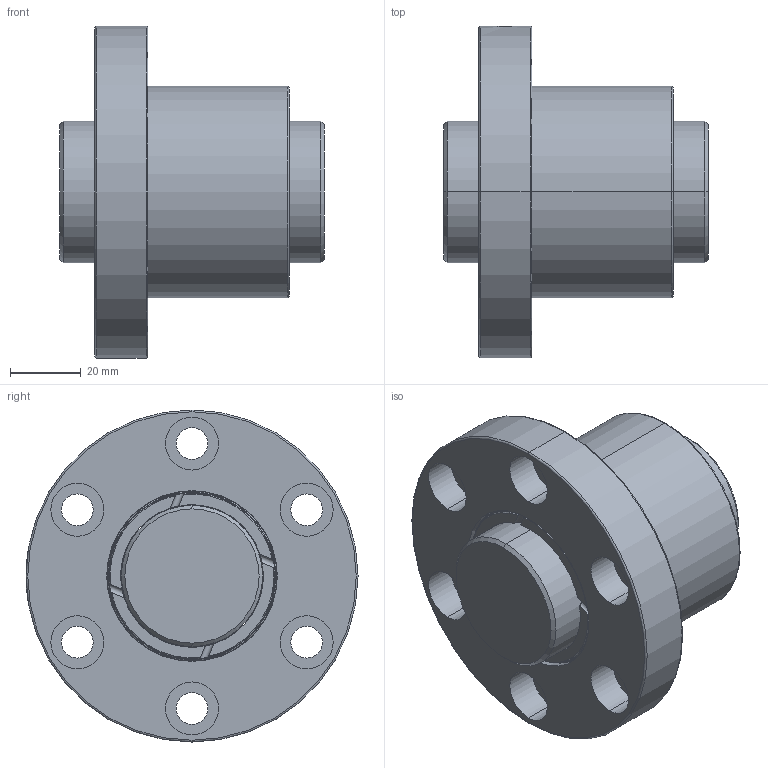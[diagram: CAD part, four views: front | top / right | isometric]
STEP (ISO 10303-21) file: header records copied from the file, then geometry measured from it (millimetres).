
FILE_DESCRIPTION (( 'STEP AP203' ), '1' );
FILE_NAME ('SFZR04005T4N-C.STEP', '2020-06-18T01:00:38', ( '' ), ( '' ), 'SwSTEP 2.0', 'SolidWorks 2013', '' );
FILE_SCHEMA (( 'CONFIG_CONTROL_DESIGN' ));
Length unit declared in the file: millimetre
Products named in the file (1): SFZR04005T4N-C
Bounding box: 75 x 94 x 94 mm (x, y, z)
Volume: 223315.3 mm3; surface area: 49653.2 mm2
Topology: 2 solids, 2 shells, 120 faces, 288 edges, 182 vertices
Faces by surface type: cylinder 66, plane 26, torus 24, cone 4
Entity records: 4027 total; most frequent: CARTESIAN_POINT 1059, DIRECTION 652, ORIENTED_EDGE 576, AXIS2_PLACEMENT_3D 289, EDGE_CURVE 288, VERTEX_POINT 182, CIRCLE 168, EDGE_LOOP 148
